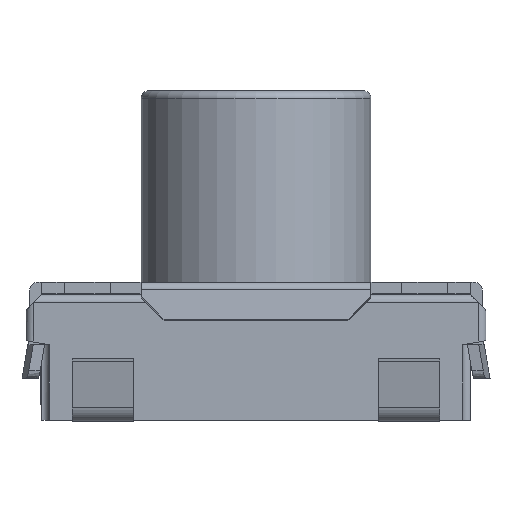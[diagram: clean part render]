
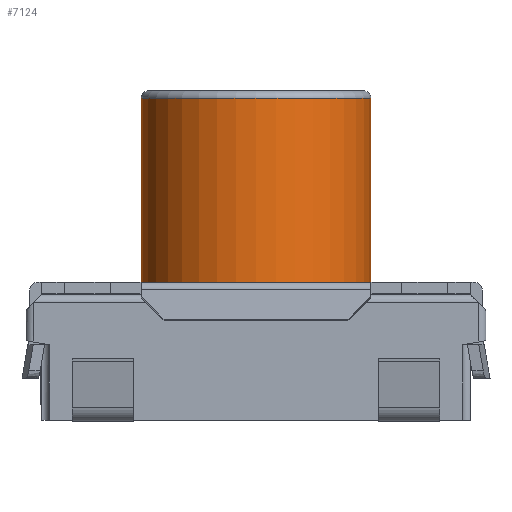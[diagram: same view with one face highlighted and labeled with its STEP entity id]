
A CAD part, left-side view. The second image highlights one B-rep face of the part: STEP entity #7124.
In plain terms, the highlighted cylindrical face has radius 1.5 mm (diameter 3 mm), a partial arc.
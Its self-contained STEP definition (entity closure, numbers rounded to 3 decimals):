
#716 = VECTOR ( 'NONE', #8427, 1000. ) ;
#931 = VERTEX_POINT ( 'NONE', #9888 ) ;
#1766 = CIRCLE ( 'NONE', #6361, 1.5 ) ;
#2319 = VERTEX_POINT ( 'NONE', #9265 ) ;
#2588 = CARTESIAN_POINT ( 'NONE',  ( 0., 1.5, 4.3 ) ) ;
#2883 = CARTESIAN_POINT ( 'NONE',  ( 0., 0., 4.2 ) ) ;
#2981 = ORIENTED_EDGE ( 'NONE', *, *, #3955, .T. ) ;
#3891 = CYLINDRICAL_SURFACE ( 'NONE', #8415, 1.5 ) ;
#3955 = EDGE_CURVE ( 'NONE', #931, #14644, #1766, .T. ) ;
#4085 = EDGE_LOOP ( 'NONE', ( #12956, #2981, #13429, #17254 ) ) ;
#4516 = DIRECTION ( 'NONE',  ( 0., -1., 0. ) ) ;
#5214 = DIRECTION ( 'NONE',  ( 0., 0., -1. ) ) ;
#5219 = EDGE_CURVE ( 'NONE', #11917, #2319, #12193, .T. ) ;
#6061 = DIRECTION ( 'NONE',  ( 0., -1., 0. ) ) ;
#6361 = AXIS2_PLACEMENT_3D ( 'NONE', #2883, #13335, #4516 ) ;
#6372 = AXIS2_PLACEMENT_3D ( 'NONE', #17938, #14972, #6061 ) ;
#6649 = LINE ( 'NONE', #18339, #18428 ) ;
#6867 = DIRECTION ( 'NONE',  ( 0., 1., 0. ) ) ;
#7124 = ADVANCED_FACE ( 'NONE', ( #12343 ), #3891, .T. ) ;
#8415 = AXIS2_PLACEMENT_3D ( 'NONE', #15297, #9724, #6867 ) ;
#8427 = DIRECTION ( 'NONE',  ( 0., 0., -1. ) ) ;
#9265 = CARTESIAN_POINT ( 'NONE',  ( 0., -1.5, 1.65 ) ) ;
#9724 = DIRECTION ( 'NONE',  ( 0., 0., -1. ) ) ;
#9888 = CARTESIAN_POINT ( 'NONE',  ( 0., -1.5, 4.2 ) ) ;
#11279 = EDGE_CURVE ( 'NONE', #931, #2319, #6649, .T. ) ;
#11917 = VERTEX_POINT ( 'NONE', #13777 ) ;
#12193 = CIRCLE ( 'NONE', #6372, 1.5 ) ;
#12343 = FACE_OUTER_BOUND ( 'NONE', #4085, .T. ) ;
#12956 = ORIENTED_EDGE ( 'NONE', *, *, #11279, .F. ) ;
#13254 = CARTESIAN_POINT ( 'NONE',  ( 0., 1.5, 4.2 ) ) ;
#13335 = DIRECTION ( 'NONE',  ( 0., 0., -1. ) ) ;
#13429 = ORIENTED_EDGE ( 'NONE', *, *, #15677, .T. ) ;
#13777 = CARTESIAN_POINT ( 'NONE',  ( 0., 1.5, 1.65 ) ) ;
#14644 = VERTEX_POINT ( 'NONE', #13254 ) ;
#14972 = DIRECTION ( 'NONE',  ( 0., 0., 1. ) ) ;
#15297 = CARTESIAN_POINT ( 'NONE',  ( 0., 0., 4.3 ) ) ;
#15677 = EDGE_CURVE ( 'NONE', #14644, #11917, #18665, .T. ) ;
#17254 = ORIENTED_EDGE ( 'NONE', *, *, #5219, .T. ) ;
#17938 = CARTESIAN_POINT ( 'NONE',  ( 0., 0., 1.65 ) ) ;
#18339 = CARTESIAN_POINT ( 'NONE',  ( 0., -1.5, 4.3 ) ) ;
#18428 = VECTOR ( 'NONE', #5214, 1000. ) ;
#18665 = LINE ( 'NONE', #2588, #716 ) ;
